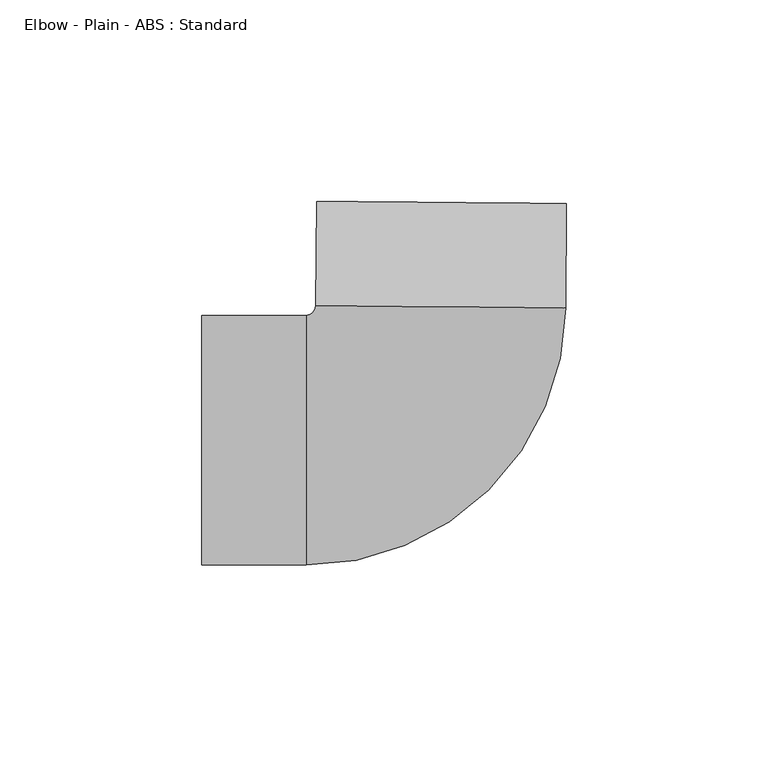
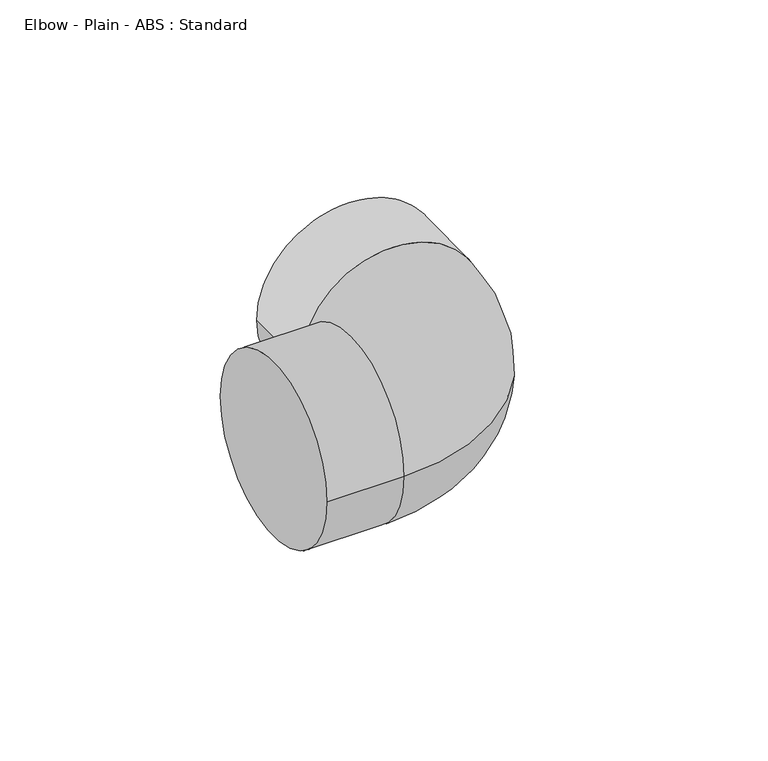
"""IFC4 building model written with IfcOpenShell, lengths in millimetres: pipe fitting geometry, Elbow - Plain - ABS : Standard."""

import ifcopenshell
import ifcopenshell.guid

model = None  # the IFC model being written
_history = None  # IfcOwnerHistory: only IFC2X3 demands one
_inside = {}  # id of a spatial element -> (the spatial element, [elements in it])
_under = {}  # id of a project, library or spatial element -> (it, [spatial elements below it])
_declared = {}  # id of a project -> (the project, [libraries it declares])
_typed = {}  # id of a type object -> (the type object, [elements of that type])
_made_of = {}  # id of a material, layer set ... -> (it, [elements and type objects made of it])


def new_model(schema):
    """Start an empty IFC model of exactly this schema.

    Asked for "IFC4X3", IfcOpenShell would pick the latest addendum, in which some entities
    have other attributes; the version numbers below select the first issue.
    IFC2X3 requires an IfcOwnerHistory on every rooted entity: one is made here for all.
    """
    global model, _history
    if schema == "IFC4X3":
        model = ifcopenshell.file(schema_version=(4, 3, 0, 0))
    else:
        model = ifcopenshell.file(schema=schema)
    _inside.clear()
    _under.clear()
    _declared.clear()
    _typed.clear()
    _made_of.clear()
    _history = None
    if model.schema == "IFC2X3":
        org = make("IfcOrganization", Name="unknown")
        user = make(
            "IfcPersonAndOrganization",
            ThePerson=make("IfcPerson", FamilyName="unknown"),
            TheOrganization=org,
        )
        app = make(
            "IfcApplication",
            ApplicationDeveloper=org,
            Version="unknown",
            ApplicationFullName="unknown",
            ApplicationIdentifier="unknown",
        )
        _history = make(
            "IfcOwnerHistory",
            OwningUser=user,
            OwningApplication=app,
            ChangeAction="ADDED",
            CreationDate=0,
        )
    return model


def make(cls, **values):
    """One entity of the class cls with the attributes given. An attribute that is None is left unset."""
    return model.create_entity(
        cls, **{name: value for name, value in values.items() if value is not None}
    )


def rooted(cls, **values):
    """An entity with a GlobalId (a new one), such as an element, a storey or a relation."""
    return make(cls, GlobalId=ifcopenshell.guid.new(), OwnerHistory=_history, **values)


def si_unit(unit_type, name, prefix=None):
    """IfcSIUnit, for example si_unit("LENGTHUNIT", "METRE", prefix="MILLI")."""
    return make("IfcSIUnit", UnitType=unit_type, Prefix=prefix, Name=name)


def assignment(units):
    """IfcUnitAssignment: the units of a project."""
    return None if units is None else make("IfcUnitAssignment", Units=units)


def point(xyz):
    """IfcCartesianPoint."""
    return None if xyz is None else make("IfcCartesianPoint", Coordinates=xyz)


def direction(xyz):
    """IfcDirection."""
    return None if xyz is None else make("IfcDirection", DirectionRatios=xyz)


def frame(location, z_axis=None, x_axis=None):
    """IfcAxis2Placement3D, a coordinate frame: its origin and axes. An axis left out is left unset."""
    return make(
        "IfcAxis2Placement3D",
        Location=point(location),
        Axis=direction(z_axis),
        RefDirection=direction(x_axis),
    )


def origin():
    """The frame at (0, 0, 0) with its axes left unset."""
    return frame((0.0, 0.0, 0.0))


def place(relative_to, where):
    """IfcLocalPlacement: puts the frame where relative to a parent placement (None: the world)."""
    return make(
        "IfcLocalPlacement", PlacementRelTo=relative_to, RelativePlacement=where
    )


def context(
    kind, dimensions, precision=None, world=None, true_north=None, identifier=None
):
    """IfcGeometricRepresentationContext, for example the 3D "Model" context."""
    return make(
        "IfcGeometricRepresentationContext",
        ContextIdentifier=identifier,
        ContextType=kind,
        CoordinateSpaceDimension=dimensions,
        Precision=precision,
        WorldCoordinateSystem=world,
        TrueNorth=true_north,
    )


def project(units=None, contexts=None):
    """IfcProject with its units and contexts."""
    return rooted(
        "IfcProject",
        Name="project",
        RepresentationContexts=contexts,
        UnitsInContext=assignment(units),
    )


def spatial(cls, under=None, at=None, **own):
    """A site, building, storey or space (cls), placed at a placement, below another one or the project."""
    s = rooted(cls, ObjectPlacement=at, **own)
    if under is not None:
        _under.setdefault(under.id(), (under, []))[1].append(s)
    return s


def circle_curve(where, radius):
    """IfcCircle in the frame where."""
    return make("IfcCircle", Position=where, Radius=radius)


def ellipse_curve(where, semi_axis1, semi_axis2):
    """IfcEllipse in the frame where."""
    return make(
        "IfcEllipse", Position=where, SemiAxis1=semi_axis1, SemiAxis2=semi_axis2
    )


def trimmed(basis, trim1, trim2, sense, master):
    """IfcTrimmedCurve: the piece of a basis curve between two trims."""
    return make(
        "IfcTrimmedCurve",
        BasisCurve=basis,
        Trim1=trim1,
        Trim2=trim2,
        SenseAgreement=sense,
        MasterRepresentation=master,
    )


def shape(context_of_items, identifier, shape_type, items):
    """IfcShapeRepresentation: the items that make up one representation, for example the "Body"."""
    return make(
        "IfcShapeRepresentation",
        ContextOfItems=context_of_items,
        RepresentationIdentifier=identifier,
        RepresentationType=shape_type,
        Items=items,
    )


def source(mapping_origin, context_of_items, identifier, shape_type, items):
    """IfcRepresentationMap: a shape defined once, which mapped items show again and again."""
    return make(
        "IfcRepresentationMap",
        MappingOrigin=mapping_origin,
        MappedRepresentation=shape(context_of_items, identifier, shape_type, items),
    )


def transform(
    local_origin,
    x_axis=None,
    y_axis=None,
    z_axis=None,
    scale=None,
    scale2=None,
    scale3=None,
    uniform=True,
):
    """IfcCartesianTransformationOperator3D, or its non-uniform kind. x_axis, y_axis, z_axis: its Axis1, 2, 3."""
    if uniform:
        return make(
            "IfcCartesianTransformationOperator3D",
            Axis1=direction(x_axis),
            Axis2=direction(y_axis),
            LocalOrigin=point(local_origin),
            Scale=scale,
            Axis3=direction(z_axis),
        )
    return make(
        "IfcCartesianTransformationOperator3DnonUniform",
        Axis1=direction(x_axis),
        Axis2=direction(y_axis),
        LocalOrigin=point(local_origin),
        Scale=scale,
        Axis3=direction(z_axis),
        Scale2=scale2,
        Scale3=scale3,
    )


def mapped(mapping_source, mapping_target):
    """IfcMappedItem: shows the shape of a source again, moved by a transform."""
    return make(
        "IfcMappedItem", MappingSource=mapping_source, MappingTarget=mapping_target
    )


def made_of(thing, what):
    """Note that an element or type object is made of a material, layer set ...; save() writes the relation."""
    if what is not None:
        _made_of.setdefault(what.id(), (what, []))[1].append(thing)
    return thing


def element(
    cls,
    number,
    at=None,
    inside=None,
    cuts=None,
    type_object=None,
    material=None,
    context=None,
    identifier="Body",
    shape_type=None,
    held_by="IfcProductDefinitionShape",
    body=None,
    shapes=None,
    **own,
):
    """One element of the class cls, such as IfcWall. Its Tag is "e" and its number.

    at: its placement. inside: the storey or other place that contains it. cuts: it is an
    opening in that element (IfcRelVoidsElement). A single representation is given by context,
    identifier, shape_type and body (its items); several are given by shapes. held_by: the class
    of the entity that holds the representations. save() writes the other relations.
    """
    e = rooted(cls, Tag="e%d" % number, ObjectPlacement=at, **own)
    if body is not None:
        shapes = [shape(context, identifier, shape_type, body)]
    if shapes is not None:
        e.Representation = make(held_by, Representations=shapes)
    if inside is not None:
        _inside.setdefault(inside.id(), (inside, []))[1].append(e)
    if cuts is not None:
        rooted(
            "IfcRelVoidsElement", RelatingBuildingElement=cuts, RelatedOpeningElement=e
        )
    if type_object is not None:
        _typed.setdefault(type_object.id(), (type_object, []))[1].append(e)
    return made_of(e, material)


def aggregate(whole, parts):
    """IfcRelAggregates: a whole, such as a stair, and the parts it consists of."""
    return rooted("IfcRelAggregates", RelatingObject=whole, RelatedObjects=parts)


def save(model, path):
    """Write the relations noted so far, then the file.

    IfcRelAggregates (storeys below a building ...), IfcRelContainedInSpatialStructure (elements
    in a storey), IfcRelDefinesByType, IfcRelAssociatesMaterial and IfcRelDeclares: one each for
    every whole, place, type object, material and project.
    """
    for whole, parts in _under.values():
        aggregate(whole, parts)
    for where, things in _inside.values():
        rooted(
            "IfcRelContainedInSpatialStructure",
            RelatedElements=things,
            RelatingStructure=where,
        )
    for kind, things in _typed.values():
        rooted("IfcRelDefinesByType", RelatedObjects=things, RelatingType=kind)
    for what, things in _made_of.values():
        rooted("IfcRelAssociatesMaterial", RelatedObjects=things, RelatingMaterial=what)
    for by, libraries in _declared.values():
        rooted("IfcRelDeclares", RelatingContext=by, RelatedDefinitions=libraries)
    model.write(path)


def plane_surface(at):
    """IfcPlane: the flat surface through the origin of the frame at, square to its z axis."""
    return make("IfcPlane", Position=at)


def cylinder_surface(at, radius):
    """IfcCylindricalSurface: all points at the distance radius from the z axis of the frame at."""
    return make("IfcCylindricalSurface", Position=at, Radius=radius)


def revolved_surface(curve, axis_point, axis_direction):
    """IfcSurfaceOfRevolution: the curve turned about the line through axis_point along axis_direction."""
    return make(
        "IfcSurfaceOfRevolution",
        SweptCurve=make("IfcArbitraryOpenProfileDef", ProfileType="CURVE", Curve=curve),
        AxisPosition=make("IfcAxis1Placement", Location=point(axis_point), Axis=direction(axis_direction)),
    )


def advanced_brep(points, edges, surfaces, faces):
    """IfcAdvancedBrep: a solid bounded by faces that lie on surfaces and meet in shared edges.

    An edge is (start, end): straight between two places in points (the first is 0);
    or (start, end, curve); or (start, end, curve, False) where it runs against its curve.
    A face is (place in surfaces, loops), or (place, loops, False) where it looks against
    its surface's normal. A loop lists edges by number (the first is 1), with a minus sign
    where the edge is run from its end to its start. The first loop is the outer one.
    """
    corners = [point(p) for p in points]
    vertices = [make("IfcVertexPoint", VertexGeometry=c) for c in corners]
    made = []
    for start, end, *more in edges:
        made.append(
            make(
                "IfcEdgeCurve",
                EdgeStart=vertices[start],
                EdgeEnd=vertices[end],
                EdgeGeometry=more[0] if more else make("IfcPolyline", Points=[corners[start], corners[end]]),
                SameSense=more[1] if len(more) > 1 else True,
            )
        )
    hull = []
    for where, loops, *sense in faces:
        bounds = []
        for j, loop in enumerate(loops):
            ring = [make("IfcOrientedEdge", EdgeElement=made[abs(k) - 1], Orientation=k > 0) for k in loop]
            bounds.append(
                make(
                    "IfcFaceOuterBound" if j == 0 else "IfcFaceBound",
                    Bound=make("IfcEdgeLoop", EdgeList=ring),
                    Orientation=True,
                )
            )
        hull.append(make("IfcAdvancedFace", Bounds=bounds, FaceSurface=surfaces[where], SameSense=sense[0] if sense else True))
    return make("IfcAdvancedBrep", Outer=make("IfcClosedShell", CfsFaces=hull))


def elbow_plain_abs_standard_192b4b37(model_context):
    return source(origin(), model_context, "Body", "AdvancedBrep", [
        advanced_brep(
        [(-59.0, -31.0, 0.0), (-59.0, 31.0, 0.0), (-33.08, -31.0, 0.0), (-33.08, 31.0, 0.0), (-30.7064234, 33.3526905, 0.0), (31.291155, 32.8047255, 0.0), (31.5202397, 58.7237132, 0.0), (-30.4773387, 59.2716781, 0.0)],
        [
            (0, 1, circle_curve(frame((-59.0, 0.0, 0.0), z_axis=(-1.0, 0.0, 0.0), x_axis=(0.0, 1.0, 0.0)), 31.0)),
            (1, 0, circle_curve(frame((-59.0, 0.0, 0.0), z_axis=(-1.0, 0.0, 0.0), x_axis=(0.0, 1.0, 0.0)), 31.0)),
            (0, 2),
            (2, 3, circle_curve(frame((-33.08, 0.0, 0.0), z_axis=(-1.0, 0.0, 0.0), x_axis=(0.0, 1.0, 0.0)), 31.0)),
            (3, 1),
            (3, 2, circle_curve(frame((-33.08, 0.0, 0.0), z_axis=(-1.0, 0.0, 0.0), x_axis=(0.0, 1.0, 0.0)), 31.0)),
            (4, 3, circle_curve(frame((-33.08, 33.3736693, 0.0), z_axis=(0.0, 0.0, -1.0), x_axis=(0.0, -1.0, 0.0)), 2.3736693)),
            (2, 5, circle_curve(frame((-33.08, 33.3736693, 0.0), z_axis=(0.0, 0.0, 1.0), x_axis=(0.0, -1.0, 0.0)), 64.3736693)),
            (5, 4, circle_curve(frame((0.2923658, 33.078708, 0.0), z_axis=(-0.008838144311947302, -0.9999609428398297, 0.0), x_axis=(-0.9999609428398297, 0.008838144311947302, 0.0)), 31.0)),
            (4, 5, circle_curve(frame((0.2923658, 33.078708, 0.0), z_axis=(-0.008838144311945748, -0.9999609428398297, 0.0), x_axis=(-0.9999609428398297, 0.008838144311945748, 0.0)), 31.0)),
            (6, 7, circle_curve(frame((0.5214505, 58.9976956, 0.0), z_axis=(0.008838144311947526, 0.9999609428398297, 0.0), x_axis=(-0.9999609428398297, 0.008838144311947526, 0.0)), 31.0)),
            (7, 6, circle_curve(frame((0.5214505, 58.9976956, 0.0), z_axis=(0.008838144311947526, 0.9999609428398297, 0.0), x_axis=(-0.9999609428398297, 0.008838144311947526, 0.0)), 31.0)),
            (5, 6),
            (7, 4),
        ],
        [
            plane_surface(frame((-59.0, 0.0, 0.0), z_axis=(-1.0, 0.0, 0.0), x_axis=(0.0, 0.0, 1.0))),
            cylinder_surface(frame((-59.0, 0.0, 0.0), z_axis=(-1.0, 0.0, 0.0), x_axis=(0.0, 1.0, 0.0)), 31.0),
            revolved_surface(trimmed(ellipse_curve(frame((-33.08, 0.0, 0.0), z_axis=(-1.0, 0.0, 0.0), x_axis=(0.0, 1.0, 0.0)), 31.0, 31.0), [point((-33.08, -31.0, 0.0))], [point((-33.08, 31.0, 0.0))], True, "CARTESIAN"), (-33.08, 33.3736693, 0.0), (0.0, 0.0, 1.0)),
            revolved_surface(trimmed(ellipse_curve(frame((-33.08, 0.0, 0.0), z_axis=(-1.0, 0.0, 0.0), x_axis=(0.0, 1.0, 0.0)), 31.0, 31.0), [point((-33.08, 31.0, 0.0))], [point((-33.08, -31.0, 0.0))], True, "CARTESIAN"), (-33.08, 33.3736693, 0.0), (0.0, 0.0, 1.0)),
            plane_surface(frame((0.5214505, 58.9976956, 0.0), z_axis=(0.008838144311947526, 0.9999609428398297, 0.0), x_axis=(0.0, 0.0, 1.0))),
            cylinder_surface(frame((0.2923658, 33.078708, 0.0), z_axis=(-0.008838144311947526, -0.9999609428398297, 0.0), x_axis=(-0.9999609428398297, 0.008838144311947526, 0.0)), 31.0),
        ],
        [
            (0, [[1, 2]]),
            (1, [[-1, 3, 4, 5]]),
            (1, [[-2, -5, 6, -3]]),
            (2, [[7, -4, 8, 9]]),
            (3, [[-8, -6, -7, 10]]),
            (4, [[11, 12]]),
            (5, [[-9, 13, -12, 14]]),
            (5, [[-10, -14, -11, -13]]),
        ],
    ),
    ])


if __name__ == "__main__":
    model = new_model("IFC4")
    model_context = context("Model", 3, world=origin())
    ifc_project = project(units=[si_unit("LENGTHUNIT", "METRE", prefix="MILLI")], contexts=[model_context])
    site = spatial("IfcSite", under=ifc_project)
    building = spatial("IfcBuilding", under=site)
    placement = place(None, origin())
    elbow_plain_abs_standard_shape = elbow_plain_abs_standard_192b4b37(model_context)
    element("IfcPipeFitting", 1, ObjectType="Elbow - Plain - ABS : Standard", at=placement, inside=building, context=model_context, shape_type="MappedRepresentation", body=[
        mapped(elbow_plain_abs_standard_shape, transform((0.0, 0.0, 0.0), x_axis=(1.0, 0.0, 0.0), y_axis=(0.0, 1.0, 0.0), z_axis=(0.0, 0.0, 1.0))),
    ])
    save(model, "model.ifc")
